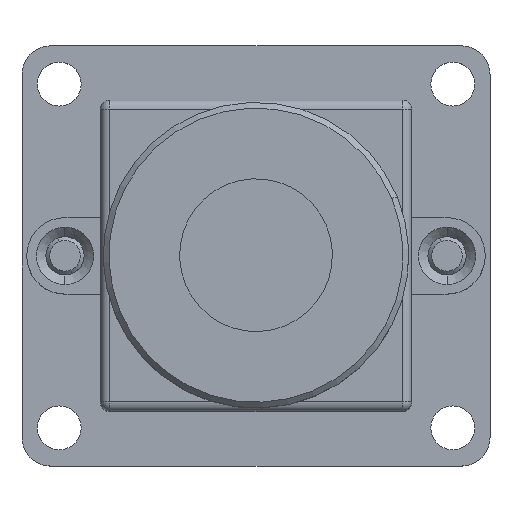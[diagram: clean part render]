
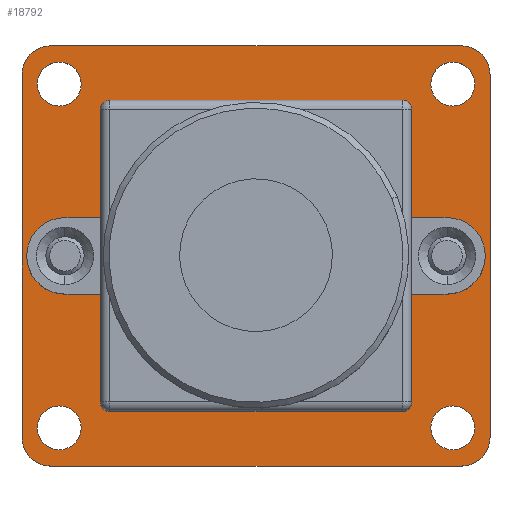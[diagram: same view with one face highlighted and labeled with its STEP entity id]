
A CAD part, top view. The second image highlights one B-rep face of the part: STEP entity #18792.
In plain terms, the highlighted planar face has unit normal (0, 0, 1).
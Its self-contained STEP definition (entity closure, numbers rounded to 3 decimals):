
#18266=CARTESIAN_POINT('',(-13.452,-7.322,
-3.996));
#18267=DIRECTION('',(0.,0.,1.));
#18268=DIRECTION('',(-1.,0.001,0.));
#18269=AXIS2_PLACEMENT_3D('',#18266,#18267,#18268);
#18271=DIRECTION('',(0.,-1.,0.));
#18272=VECTOR('',#18271,19.);
#18273=CARTESIAN_POINT('',(-14.951,11.679,
-3.996));
#18274=LINE('',#18273,#18272);
#18275=CARTESIAN_POINT('',(-13.452,11.68,
-3.996));
#18276=DIRECTION('',(0.,0.,1.));
#18277=DIRECTION('',(0.001,1.,0.));
#18278=AXIS2_PLACEMENT_3D('',#18275,#18276,#18277);
#18280=DIRECTION('',(-1.,0.,0.));
#18281=VECTOR('',#18280,21.5);
#18282=CARTESIAN_POINT('',(8.049,13.179,
-3.996));
#18283=LINE('',#18282,#18281);
#18284=CARTESIAN_POINT('',(8.05,11.68,
-3.996));
#18285=DIRECTION('',(0.,0.,1.));
#18286=DIRECTION('',(1.,-0.002,0.));
#18287=AXIS2_PLACEMENT_3D('',#18284,#18285,#18286);
#18289=DIRECTION('',(0.,1.,0.));
#18290=VECTOR('',#18289,18.998);
#18291=CARTESIAN_POINT('',(9.549,-7.321,
-3.996));
#18292=LINE('',#18291,#18290);
#18293=CARTESIAN_POINT('',(8.05,-7.322,
-3.996));
#18294=DIRECTION('',(0.,0.,1.));
#18295=DIRECTION('',(-0.001,-1.,0.));
#18296=AXIS2_PLACEMENT_3D('',#18293,#18294,#18295);
#18298=DIRECTION('',(1.,0.,0.));
#18299=VECTOR('',#18298,21.5);
#18300=CARTESIAN_POINT('',(-13.451,-8.821,
-3.996));
#18301=LINE('',#18300,#18299);
#18302=CARTESIAN_POINT('',(7.599,11.179,
-3.996));
#18303=DIRECTION('',(0.,0.,-1.));
#18304=DIRECTION('',(1.,0.,0.));
#18305=AXIS2_PLACEMENT_3D('',#18302,#18303,#18304);
#18307=CARTESIAN_POINT('',(7.599,11.179,
-3.996));
#18308=DIRECTION('',(0.,0.,-1.));
#18309=DIRECTION('',(-1.,0.,0.));
#18310=AXIS2_PLACEMENT_3D('',#18307,#18308,#18309);
#18312=CARTESIAN_POINT('',(7.299,2.179,
-3.996));
#18313=DIRECTION('',(0.,0.,1.));
#18314=DIRECTION('',(-1.,0.,0.));
#18315=AXIS2_PLACEMENT_3D('',#18312,#18313,#18314);
#18317=CARTESIAN_POINT('',(7.299,2.179,
-3.996));
#18318=DIRECTION('',(0.,0.,1.));
#18319=DIRECTION('',(1.,0.,0.));
#18320=AXIS2_PLACEMENT_3D('',#18317,#18318,#18319);
#18322=CARTESIAN_POINT('',(7.599,-6.821,
-3.996));
#18323=DIRECTION('',(0.,0.,-1.));
#18324=DIRECTION('',(1.,0.,0.));
#18325=AXIS2_PLACEMENT_3D('',#18322,#18323,#18324);
#18327=CARTESIAN_POINT('',(7.599,-6.821,
-3.996));
#18328=DIRECTION('',(0.,0.,-1.));
#18329=DIRECTION('',(-1.,0.,0.));
#18330=AXIS2_PLACEMENT_3D('',#18327,#18328,#18329);
#18332=CARTESIAN_POINT('',(-12.701,2.179,
-3.996));
#18333=DIRECTION('',(0.,0.,1.));
#18334=DIRECTION('',(-1.,0.,0.));
#18335=AXIS2_PLACEMENT_3D('',#18332,#18333,#18334);
#18337=CARTESIAN_POINT('',(-12.701,2.179,
-3.996));
#18338=DIRECTION('',(0.,0.,1.));
#18339=DIRECTION('',(1.,0.,0.));
#18340=AXIS2_PLACEMENT_3D('',#18337,#18338,#18339);
#18342=CARTESIAN_POINT('',(-13.001,11.179,
-3.996));
#18343=DIRECTION('',(0.,0.,-1.));
#18344=DIRECTION('',(1.,0.,0.));
#18345=AXIS2_PLACEMENT_3D('',#18342,#18343,#18344);
#18347=CARTESIAN_POINT('',(-13.001,11.179,
-3.996));
#18348=DIRECTION('',(0.,0.,-1.));
#18349=DIRECTION('',(-1.,0.,0.));
#18350=AXIS2_PLACEMENT_3D('',#18347,#18348,#18349);
#18352=CARTESIAN_POINT('',(-13.001,-6.821,
-3.996));
#18353=DIRECTION('',(0.,0.,-1.));
#18354=DIRECTION('',(1.,0.,0.));
#18355=AXIS2_PLACEMENT_3D('',#18352,#18353,#18354);
#18357=CARTESIAN_POINT('',(-13.001,-6.821,
-3.996));
#18358=DIRECTION('',(0.,0.,-1.));
#18359=DIRECTION('',(-1.,0.,0.));
#18360=AXIS2_PLACEMENT_3D('',#18357,#18358,#18359);
#18387=CARTESIAN_POINT('',(8.049,13.179,
-3.996));
#18389=VERTEX_POINT('',#18387);
#18390=CARTESIAN_POINT('',(9.549,-7.321,
-3.996));
#18391=CARTESIAN_POINT('',(9.549,11.677,
-3.996));
#18392=VERTEX_POINT('',#18390);
#18393=VERTEX_POINT('',#18391);
#18394=CARTESIAN_POINT('',(8.049,-8.821,
-3.996));
#18395=VERTEX_POINT('',#18394);
#18398=CARTESIAN_POINT('',(-13.451,13.179,
-3.996));
#18399=CARTESIAN_POINT('',(-14.951,11.679,
-3.996));
#18400=VERTEX_POINT('',#18398);
#18401=VERTEX_POINT('',#18399);
#18406=CARTESIAN_POINT('',(-14.951,-7.321,
-3.996));
#18408=VERTEX_POINT('',#18406);
#18411=CARTESIAN_POINT('',(-13.451,-8.821,
-3.996));
#18413=VERTEX_POINT('',#18411);
#18422=CARTESIAN_POINT('',(-11.601,2.179,
-3.996));
#18423=CARTESIAN_POINT('',(-13.801,2.179,
-3.996));
#18424=VERTEX_POINT('',#18422);
#18425=VERTEX_POINT('',#18423);
#18430=CARTESIAN_POINT('',(8.399,2.179,
-3.996));
#18431=CARTESIAN_POINT('',(6.199,2.179,
-3.996));
#18432=VERTEX_POINT('',#18430);
#18433=VERTEX_POINT('',#18431);
#18434=CARTESIAN_POINT('',(-11.851,-6.821,
-3.996));
#18436=VERTEX_POINT('',#18434);
#18438=CARTESIAN_POINT('',(-14.151,-6.821,
-3.996));
#18440=VERTEX_POINT('',#18438);
#18442=CARTESIAN_POINT('',(8.749,-6.821,
-3.996));
#18444=VERTEX_POINT('',#18442);
#18446=CARTESIAN_POINT('',(6.449,-6.821,
-3.996));
#18448=VERTEX_POINT('',#18446);
#18450=CARTESIAN_POINT('',(-11.851,11.179,
-3.996));
#18452=VERTEX_POINT('',#18450);
#18454=CARTESIAN_POINT('',(-14.151,11.179,
-3.996));
#18456=VERTEX_POINT('',#18454);
#18458=CARTESIAN_POINT('',(8.749,11.179,
-3.996));
#18460=VERTEX_POINT('',#18458);
#18462=CARTESIAN_POINT('',(6.449,11.179,
-3.996));
#18464=VERTEX_POINT('',#18462);
#18743=CARTESIAN_POINT('',(-2.701,2.179,
-3.996));
#18744=DIRECTION('',(0.,0.,-1.));
#18745=DIRECTION('',(0.,-1.,0.));
#18746=AXIS2_PLACEMENT_3D('',#18743,#18744,#18745);
#18747=PLANE('',#18746);
#18748=ORIENTED_EDGE('',*,*,#18587,.F.);
#18749=ORIENTED_EDGE('',*,*,#18565,.F.);
#18750=ORIENTED_EDGE('',*,*,#18543,.F.);
#18751=ORIENTED_EDGE('',*,*,#18521,.F.);
#18752=ORIENTED_EDGE('',*,*,#18499,.F.);
#18753=ORIENTED_EDGE('',*,*,#18477,.F.);
#18754=ORIENTED_EDGE('',*,*,#18630,.F.);
#18755=ORIENTED_EDGE('',*,*,#18609,.F.);
#18756=EDGE_LOOP('',(#18748,#18749,#18750,#18751,#18752,#18753,#18754,#18755));
#18757=FACE_OUTER_BOUND('',#18756,.F.);
#18758=ORIENTED_EDGE('',*,*,#18730,.F.);
#18759=ORIENTED_EDGE('',*,*,#18709,.F.);
#18760=EDGE_LOOP('',(#18758,#18759));
#18761=FACE_BOUND('',#18760,.F.);
#18763=ORIENTED_EDGE('',*,*,#18762,.T.);
#18765=ORIENTED_EDGE('',*,*,#18764,.T.);
#18766=EDGE_LOOP('',(#18763,#18765));
#18767=FACE_BOUND('',#18766,.F.);
#18769=ORIENTED_EDGE('',*,*,#18768,.F.);
#18771=ORIENTED_EDGE('',*,*,#18770,.F.);
#18772=EDGE_LOOP('',(#18769,#18771));
#18773=FACE_BOUND('',#18772,.F.);
#18775=ORIENTED_EDGE('',*,*,#18774,.T.);
#18777=ORIENTED_EDGE('',*,*,#18776,.T.);
#18778=EDGE_LOOP('',(#18775,#18777));
#18779=FACE_BOUND('',#18778,.F.);
#18781=ORIENTED_EDGE('',*,*,#18780,.F.);
#18783=ORIENTED_EDGE('',*,*,#18782,.F.);
#18784=EDGE_LOOP('',(#18781,#18783));
#18785=FACE_BOUND('',#18784,.F.);
#18787=ORIENTED_EDGE('',*,*,#18786,.F.);
#18789=ORIENTED_EDGE('',*,*,#18788,.F.);
#18790=EDGE_LOOP('',(#18787,#18789));
#18791=FACE_BOUND('',#18790,.F.);
#18270=CIRCLE('',#18269,1.499);
#18279=CIRCLE('',#18278,1.499);
#18288=CIRCLE('',#18287,1.499);
#18297=CIRCLE('',#18296,1.499);
#18306=CIRCLE('',#18305,1.15);
#18311=CIRCLE('',#18310,1.15);
#18316=CIRCLE('',#18315,1.1);
#18321=CIRCLE('',#18320,1.1);
#18326=CIRCLE('',#18325,1.15);
#18331=CIRCLE('',#18330,1.15);
#18336=CIRCLE('',#18335,1.1);
#18341=CIRCLE('',#18340,1.1);
#18346=CIRCLE('',#18345,1.15);
#18351=CIRCLE('',#18350,1.15);
#18356=CIRCLE('',#18355,1.15);
#18361=CIRCLE('',#18360,1.15);
#18477=EDGE_CURVE('',#18392,#18393,#18292,.T.);
#18499=EDGE_CURVE('',#18393,#18389,#18288,.T.);
#18521=EDGE_CURVE('',#18389,#18400,#18283,.T.);
#18543=EDGE_CURVE('',#18400,#18401,#18279,.T.);
#18565=EDGE_CURVE('',#18401,#18408,#18274,.T.);
#18587=EDGE_CURVE('',#18408,#18413,#18270,.T.);
#18609=EDGE_CURVE('',#18413,#18395,#18301,.T.);
#18630=EDGE_CURVE('',#18395,#18392,#18297,.T.);
#18709=EDGE_CURVE('',#18464,#18460,#18311,.T.);
#18730=EDGE_CURVE('',#18460,#18464,#18306,.T.);
#18762=EDGE_CURVE('',#18433,#18432,#18316,.T.);
#18764=EDGE_CURVE('',#18432,#18433,#18321,.T.);
#18768=EDGE_CURVE('',#18444,#18448,#18326,.T.);
#18770=EDGE_CURVE('',#18448,#18444,#18331,.T.);
#18774=EDGE_CURVE('',#18425,#18424,#18336,.T.);
#18776=EDGE_CURVE('',#18424,#18425,#18341,.T.);
#18780=EDGE_CURVE('',#18452,#18456,#18346,.T.);
#18782=EDGE_CURVE('',#18456,#18452,#18351,.T.);
#18786=EDGE_CURVE('',#18436,#18440,#18356,.T.);
#18788=EDGE_CURVE('',#18440,#18436,#18361,.T.);
#18792=ADVANCED_FACE('',(#18757,#18761,#18767,#18773,#18779,#18785,#18791),
#18747,.F.);
